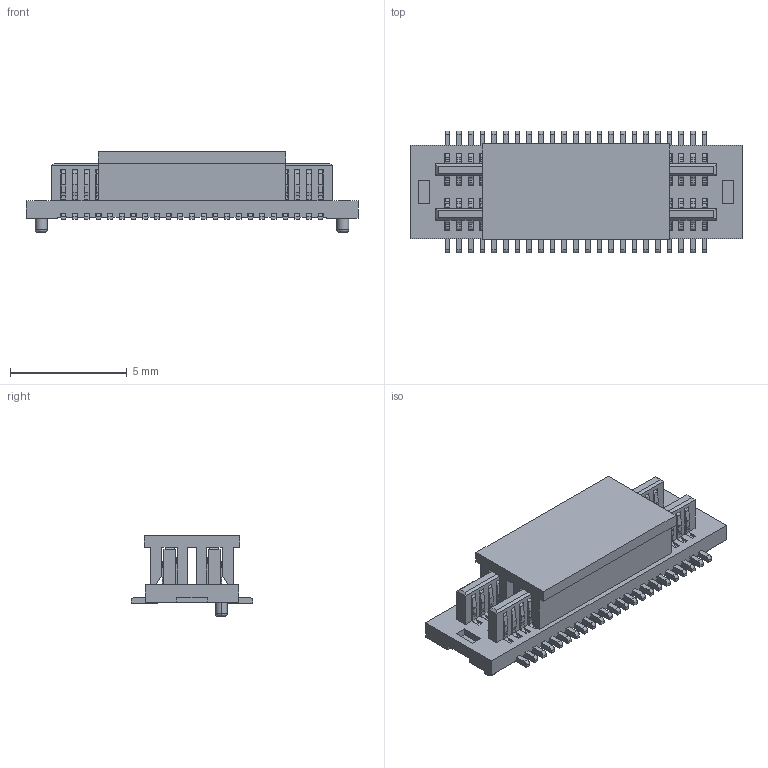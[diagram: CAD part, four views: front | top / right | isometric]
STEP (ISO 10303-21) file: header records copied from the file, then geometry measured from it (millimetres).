
FILE_DESCRIPTION(('CATIA V5 STEP Exchange'),'2;1');
FILE_NAME('F:\黄富鸿\板对板\PBB05\公座\H0.8\编带+盖\HC-PBB05-2-46-M-H0.8-G1-R-P-04（BTB0.5 双槽 公座 立贴 带柱 编带+盖）-HCTL.stp','2025-12-16T06:47:03+00:00',('none'),('none'),'CATIA Version 5 Release 20 GA (IN-10)','CATIA V5 STEP AP203','none');
FILE_SCHEMA(('CONFIG_CONTROL_DESIGN'));
Products named in the file (1): Part2
Bounding box: 14.2 x 5.2 x 3.45 mm (x, y, z)
Volume: 98.3 mm3; surface area: 774.7 mm2
Topology: 48 solids, 48 shells, 2656 faces, 8110 edges, 5372 vertices
Faces by surface type: plane 1728, cylinder 924, torus 4
Entity records: 77907 total; most frequent: ORIENTED_EDGE 16220, CARTESIAN_POINT 14452, DIRECTION 8760, EDGE_CURVE 8110, VECTOR 6070, LINE 6070, VERTEX_POINT 5372, EDGE_LOOP 2662
